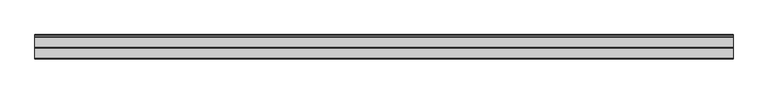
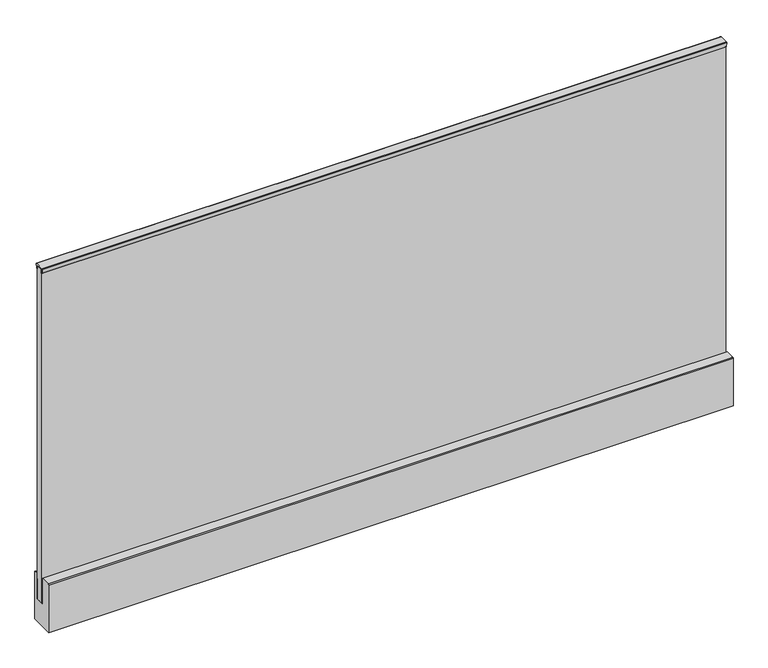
"""IFC4 building model written with IfcOpenShell, lengths in millimetres: railing geometry, Glass Railing (10+10) - Faraone - Ninfa 186 - Fascia mounted - Trapez Handrail 30."""

from ifc_helpers import new_model, si_unit, point, frame, frame_2d, origin, place, context, project, spatial, polyline, circle_curve, trimmed, segment, composite_curve, outline, extrude, source, transform, mapped, element, save


def railing_76994909(model_context):
    return source(origin(), model_context, "Body", "SweptSolid", [
        extrude(outline(composite_curve([segment(trimmed(circle_curve(frame_2d((-3674.0502408, 1105.3563017)), 2.156317), [point((-3674.0502408, 1107.5126187))], [point((-3671.9150748, 1105.0550222))], False, "CARTESIAN"), True, "CONTINUOUS"), segment(polyline([(-3671.9150748, 1105.0550222), (-3673.8909142, 1091.0522601)]), True, "CONTINUOUS"), segment(trimmed(circle_curve(frame_2d((-3675.3092573, 1091.2523933)), 1.4323933), [point((-3673.8909142, 1091.0522601))], [point((-3675.3092573, 1089.82))], False, "CARTESIAN"), True, "CONTINUOUS"), segment(polyline([(-3675.3092573, 1089.82), (-3677.0072083, 1089.82), (-3677.0072083, 1102.5586855), (-3702.5072083, 1102.5586855), (-3702.5072083, 1089.82), (-3704.2051594, 1089.82)]), True, "CONTINUOUS"), segment(trimmed(circle_curve(frame_2d((-3704.2051594, 1091.2523933)), 1.4323933), [point((-3704.2051594, 1089.82))], [point((-3705.6235025, 1091.0522601))], False, "CARTESIAN"), True, "CONTINUOUS"), segment(polyline([(-3705.6235025, 1091.0522601), (-3707.5993418, 1105.0550222)]), True, "CONTINUOUS"), segment(trimmed(circle_curve(frame_2d((-3705.4641759, 1105.3563017)), 2.156317), [point((-3707.5993418, 1105.0550222))], [point((-3705.4641759, 1107.5126187))], False, "CARTESIAN"), True, "CONTINUOUS"), segment(polyline([(-3705.4641759, 1107.5126187), (-3674.0502408, 1107.5126187)]), True, "CONTINUOUS")], self_intersect=False)), frame((4362.6376845, 0.0, 0.0), z_axis=(1.0, 0.0, 0.0), x_axis=(0.0, 1.0, 0.0)), (0.0, 0.0, 1.0), 2320.0),
        extrude(outline(polyline([(-3678.9772083, -92.36), (-3700.4772083, -92.36), (-3700.4772083, 1100.56), (-3690.2272083, 1100.56), (-3690.2272083, -91.56), (-3689.2272083, -91.56), (-3689.2272083, 1100.56), (-3678.9772083, 1100.56), (-3678.9772083, -92.36)])), frame((4362.6376845, 0.0, 0.0), z_axis=(1.0, 0.0, 0.0), x_axis=(0.0, 1.0, 0.0)), (0.0, 0.0, 1.0), 2320.0),
        extrude(outline(composite_curve([segment(trimmed(circle_curve(frame_2d((-3667.1046388, -3.1212327)), 3.1206002), [point((-3667.1046388, -0.0006325))], [point((-3663.9840386, -3.1212327))], False, "CARTESIAN"), True, "CONTINUOUS"), segment(polyline([(-3663.9840386, -3.1212327), (-3663.9840386, -173.21), (-3744.327572, -173.21), (-3744.327572, -3.0621312)]), True, "CONTINUOUS"), segment(trimmed(circle_curve(frame_2d((-3741.2660733, -3.0621312)), 3.0614987), [point((-3744.327572, -3.0621312))], [point((-3741.2660733, -0.0006325))], False, "CARTESIAN"), True, "CONTINUOUS"), segment(polyline([(-3741.2660733, -0.0006325), (-3708.7853374, -0.0006325), (-3708.7853374, -95.3393625), (-3677.0090793, -95.3393625), (-3677.0090793, -0.0006325), (-3667.1046388, -0.0006325)]), True, "CONTINUOUS")], self_intersect=False)), frame((4362.6376845, 0.0, 0.0), z_axis=(1.0, 0.0, 0.0), x_axis=(0.0, 1.0, 0.0)), (0.0, 0.0, 1.0), 2320.0),
        extrude(outline(polyline([(-3677.0052936, -95.34), (-3700.4891231, -95.34), (-3700.4891231, -92.3609041), (-3678.9792416, -92.3609041), (-3678.9792416, -20.1108016), (-3677.0052936, -20.1108016), (-3677.0052936, -95.34)])), frame((4362.6376845, 0.0, 0.0), z_axis=(1.0, 0.0, 0.0), x_axis=(0.0, 1.0, 0.0)), (0.0, 0.0, 1.0), 2320.0),
        extrude(outline(polyline([(4362.6376845, -3679.0072083), (4362.6376845, -3677.0072083), (6682.6376845, -3677.0072083), (6682.6376845, -3679.0072083), (4362.6376845, -3679.0072083)])), frame((0.0, 0.0, 1091.82), z_axis=(0.0, 0.0, 1.0), x_axis=(1.0, 0.0, 0.0)), (0.0, 0.0, 1.0), 10.74),
        extrude(outline(polyline([(4362.6376845, -3702.5072083), (4362.6376845, -3700.5072083), (6682.6376845, -3700.5072083), (6682.6376845, -3702.5072083), (4362.6376845, -3702.5072083)])), frame((0.0, 0.0, 1091.82), z_axis=(0.0, 0.0, 1.0), x_axis=(1.0, 0.0, 0.0)), (0.0, 0.0, 1.0), 10.74),
        extrude(outline(polyline([(4362.6376845, -3700.4272083), (4362.6376845, -3678.9272083), (6682.6376845, -3678.9272083), (6682.6376845, -3700.4272083), (4362.6376845, -3700.4272083)])), frame((0.0, 0.0, 1100.56), z_axis=(0.0, 0.0, 1.0), x_axis=(1.0, 0.0, 0.0)), (0.0, 0.0, 1.0), 2.0),
    ])


if __name__ == "__main__":
    model = new_model("IFC4")
    model_context = context("Model", 3, world=origin())
    ifc_project = project(units=[si_unit("LENGTHUNIT", "METRE", prefix="MILLI")], contexts=[model_context])
    site = spatial("IfcSite", under=ifc_project)
    building = spatial("IfcBuilding", under=site)
    placement = place(None, origin())
    railing_shape = railing_76994909(model_context)
    element("IfcRailing", 1, ObjectType="Glass Railing (10+10) - Faraone - Ninfa 186 - Fascia mounted - Trapez Handrail 30", at=placement, inside=building, context=model_context, shape_type="MappedRepresentation", body=[
        mapped(railing_shape, transform((0.0, 0.0, 0.0), x_axis=(1.0, 0.0, 0.0), y_axis=(0.0, 1.0, 0.0), z_axis=(0.0, 0.0, 1.0))),
    ])
    save(model, "model.ifc")
